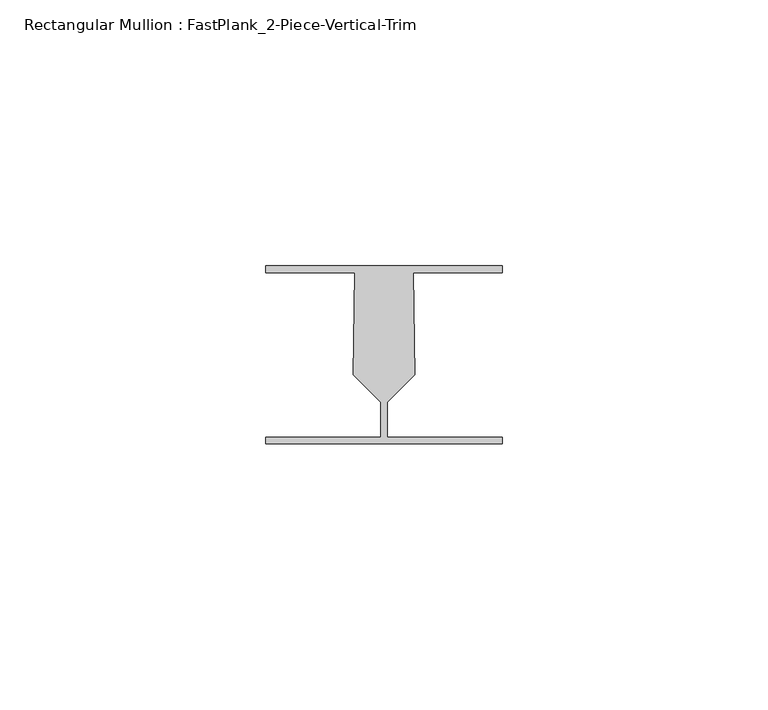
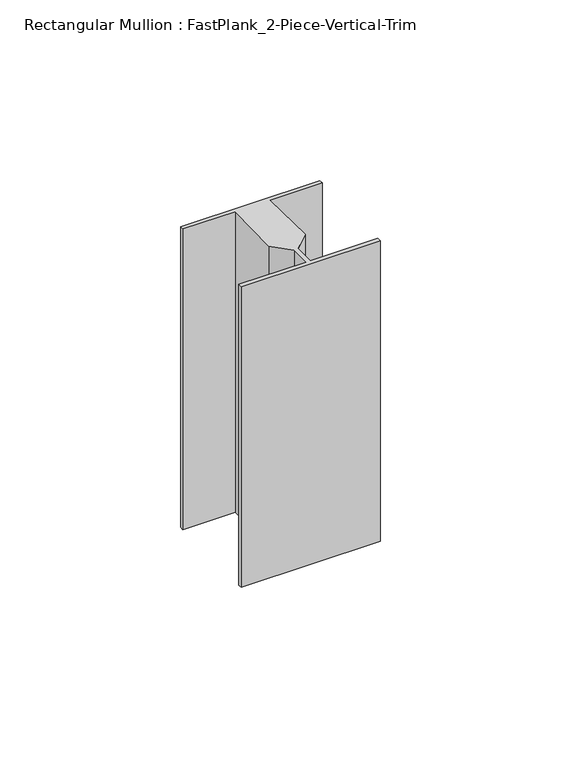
"""IFC4 building model written with IfcOpenShell, lengths in millimetres: member geometry, Rectangular Mullion : FastPlank_2-Piece-Vertical-Trim."""

import ifcopenshell
import ifcopenshell.guid

model = None  # the IFC model being written
_history = None  # IfcOwnerHistory: only IFC2X3 demands one
_inside = {}  # id of a spatial element -> (the spatial element, [elements in it])
_under = {}  # id of a project, library or spatial element -> (it, [spatial elements below it])
_declared = {}  # id of a project -> (the project, [libraries it declares])
_typed = {}  # id of a type object -> (the type object, [elements of that type])
_made_of = {}  # id of a material, layer set ... -> (it, [elements and type objects made of it])


def new_model(schema):
    """Start an empty IFC model of exactly this schema.

    Asked for "IFC4X3", IfcOpenShell would pick the latest addendum, in which some entities
    have other attributes; the version numbers below select the first issue.
    IFC2X3 requires an IfcOwnerHistory on every rooted entity: one is made here for all.
    """
    global model, _history
    if schema == "IFC4X3":
        model = ifcopenshell.file(schema_version=(4, 3, 0, 0))
    else:
        model = ifcopenshell.file(schema=schema)
    _inside.clear()
    _under.clear()
    _declared.clear()
    _typed.clear()
    _made_of.clear()
    _history = None
    if model.schema == "IFC2X3":
        org = make("IfcOrganization", Name="unknown")
        user = make(
            "IfcPersonAndOrganization",
            ThePerson=make("IfcPerson", FamilyName="unknown"),
            TheOrganization=org,
        )
        app = make(
            "IfcApplication",
            ApplicationDeveloper=org,
            Version="unknown",
            ApplicationFullName="unknown",
            ApplicationIdentifier="unknown",
        )
        _history = make(
            "IfcOwnerHistory",
            OwningUser=user,
            OwningApplication=app,
            ChangeAction="ADDED",
            CreationDate=0,
        )
    return model


def make(cls, **values):
    """One entity of the class cls with the attributes given. An attribute that is None is left unset."""
    return model.create_entity(
        cls, **{name: value for name, value in values.items() if value is not None}
    )


def rooted(cls, **values):
    """An entity with a GlobalId (a new one), such as an element, a storey or a relation."""
    return make(cls, GlobalId=ifcopenshell.guid.new(), OwnerHistory=_history, **values)


def si_unit(unit_type, name, prefix=None):
    """IfcSIUnit, for example si_unit("LENGTHUNIT", "METRE", prefix="MILLI")."""
    return make("IfcSIUnit", UnitType=unit_type, Prefix=prefix, Name=name)


def assignment(units):
    """IfcUnitAssignment: the units of a project."""
    return None if units is None else make("IfcUnitAssignment", Units=units)


def point(xyz):
    """IfcCartesianPoint."""
    return None if xyz is None else make("IfcCartesianPoint", Coordinates=xyz)


def direction(xyz):
    """IfcDirection."""
    return None if xyz is None else make("IfcDirection", DirectionRatios=xyz)


def frame(location, z_axis=None, x_axis=None):
    """IfcAxis2Placement3D, a coordinate frame: its origin and axes. An axis left out is left unset."""
    return make(
        "IfcAxis2Placement3D",
        Location=point(location),
        Axis=direction(z_axis),
        RefDirection=direction(x_axis),
    )


def origin():
    """The frame at (0, 0, 0) with its axes left unset."""
    return frame((0.0, 0.0, 0.0))


def place(relative_to, where):
    """IfcLocalPlacement: puts the frame where relative to a parent placement (None: the world)."""
    return make(
        "IfcLocalPlacement", PlacementRelTo=relative_to, RelativePlacement=where
    )


def context(
    kind, dimensions, precision=None, world=None, true_north=None, identifier=None
):
    """IfcGeometricRepresentationContext, for example the 3D "Model" context."""
    return make(
        "IfcGeometricRepresentationContext",
        ContextIdentifier=identifier,
        ContextType=kind,
        CoordinateSpaceDimension=dimensions,
        Precision=precision,
        WorldCoordinateSystem=world,
        TrueNorth=true_north,
    )


def project(units=None, contexts=None):
    """IfcProject with its units and contexts."""
    return rooted(
        "IfcProject",
        Name="project",
        RepresentationContexts=contexts,
        UnitsInContext=assignment(units),
    )


def spatial(cls, under=None, at=None, **own):
    """A site, building, storey or space (cls), placed at a placement, below another one or the project."""
    s = rooted(cls, ObjectPlacement=at, **own)
    if under is not None:
        _under.setdefault(under.id(), (under, []))[1].append(s)
    return s


def polyline(points):
    """IfcPolyline through the points."""
    return make("IfcPolyline", Points=[point(p) for p in points])


def outline(outer, holes=None, kind="AREA"):
    """IfcArbitraryClosedProfileDef: a profile drawn as a closed curve; with holes, ...WithVoids."""
    if holes is None:
        return make("IfcArbitraryClosedProfileDef", ProfileType=kind, OuterCurve=outer)
    return make(
        "IfcArbitraryProfileDefWithVoids",
        ProfileType=kind,
        OuterCurve=outer,
        InnerCurves=holes,
    )


def extrude(swept, where, along, depth):
    """IfcExtrudedAreaSolid: the profile swept, set in the frame where, extruded along a direction by depth."""
    return make(
        "IfcExtrudedAreaSolid",
        SweptArea=swept,
        Position=where,
        ExtrudedDirection=direction(along),
        Depth=depth,
    )


def shape(context_of_items, identifier, shape_type, items):
    """IfcShapeRepresentation: the items that make up one representation, for example the "Body"."""
    return make(
        "IfcShapeRepresentation",
        ContextOfItems=context_of_items,
        RepresentationIdentifier=identifier,
        RepresentationType=shape_type,
        Items=items,
    )


def source(mapping_origin, context_of_items, identifier, shape_type, items):
    """IfcRepresentationMap: a shape defined once, which mapped items show again and again."""
    return make(
        "IfcRepresentationMap",
        MappingOrigin=mapping_origin,
        MappedRepresentation=shape(context_of_items, identifier, shape_type, items),
    )


def transform(
    local_origin,
    x_axis=None,
    y_axis=None,
    z_axis=None,
    scale=None,
    scale2=None,
    scale3=None,
    uniform=True,
):
    """IfcCartesianTransformationOperator3D, or its non-uniform kind. x_axis, y_axis, z_axis: its Axis1, 2, 3."""
    if uniform:
        return make(
            "IfcCartesianTransformationOperator3D",
            Axis1=direction(x_axis),
            Axis2=direction(y_axis),
            LocalOrigin=point(local_origin),
            Scale=scale,
            Axis3=direction(z_axis),
        )
    return make(
        "IfcCartesianTransformationOperator3DnonUniform",
        Axis1=direction(x_axis),
        Axis2=direction(y_axis),
        LocalOrigin=point(local_origin),
        Scale=scale,
        Axis3=direction(z_axis),
        Scale2=scale2,
        Scale3=scale3,
    )


def mapped(mapping_source, mapping_target):
    """IfcMappedItem: shows the shape of a source again, moved by a transform."""
    return make(
        "IfcMappedItem", MappingSource=mapping_source, MappingTarget=mapping_target
    )


def made_of(thing, what):
    """Note that an element or type object is made of a material, layer set ...; save() writes the relation."""
    if what is not None:
        _made_of.setdefault(what.id(), (what, []))[1].append(thing)
    return thing


def element(
    cls,
    number,
    at=None,
    inside=None,
    cuts=None,
    type_object=None,
    material=None,
    context=None,
    identifier="Body",
    shape_type=None,
    held_by="IfcProductDefinitionShape",
    body=None,
    shapes=None,
    **own,
):
    """One element of the class cls, such as IfcWall. Its Tag is "e" and its number.

    at: its placement. inside: the storey or other place that contains it. cuts: it is an
    opening in that element (IfcRelVoidsElement). A single representation is given by context,
    identifier, shape_type and body (its items); several are given by shapes. held_by: the class
    of the entity that holds the representations. save() writes the other relations.
    """
    e = rooted(cls, Tag="e%d" % number, ObjectPlacement=at, **own)
    if body is not None:
        shapes = [shape(context, identifier, shape_type, body)]
    if shapes is not None:
        e.Representation = make(held_by, Representations=shapes)
    if inside is not None:
        _inside.setdefault(inside.id(), (inside, []))[1].append(e)
    if cuts is not None:
        rooted(
            "IfcRelVoidsElement", RelatingBuildingElement=cuts, RelatedOpeningElement=e
        )
    if type_object is not None:
        _typed.setdefault(type_object.id(), (type_object, []))[1].append(e)
    return made_of(e, material)


def aggregate(whole, parts):
    """IfcRelAggregates: a whole, such as a stair, and the parts it consists of."""
    return rooted("IfcRelAggregates", RelatingObject=whole, RelatedObjects=parts)


def save(model, path):
    """Write the relations noted so far, then the file.

    IfcRelAggregates (storeys below a building ...), IfcRelContainedInSpatialStructure (elements
    in a storey), IfcRelDefinesByType, IfcRelAssociatesMaterial and IfcRelDeclares: one each for
    every whole, place, type object, material and project.
    """
    for whole, parts in _under.values():
        aggregate(whole, parts)
    for where, things in _inside.values():
        rooted(
            "IfcRelContainedInSpatialStructure",
            RelatedElements=things,
            RelatingStructure=where,
        )
    for kind, things in _typed.values():
        rooted("IfcRelDefinesByType", RelatedObjects=things, RelatingType=kind)
    for what, things in _made_of.values():
        rooted("IfcRelAssociatesMaterial", RelatedObjects=things, RelatingMaterial=what)
    for by, libraries in _declared.values():
        rooted("IfcRelDeclares", RelatingContext=by, RelatedDefinitions=libraries)
    model.write(path)


def rectangular_mullion_fastplank_2_piece_vertical_trim_b75c35a9(model_context):
    return source(origin(), model_context, "Body", "SweptSolid", [
        extrude(outline(polyline([(22.2251761, -11.8625052), (-22.2251761, -11.8625052), (-22.2251761, -10.5625078), (-0.6499987, -10.5625078), (-0.6499987, -3.992521), (-5.8241876, 1.1816679), (-5.4899028, 20.332833), (-22.2251761, 20.332833), (-22.2251761, 21.6328304), (22.2251761, 21.6328304), (22.2251761, 20.332833), (5.4899028, 20.332833), (5.8241876, 1.1816679), (0.6499987, -3.992521), (0.6499987, -10.5625078), (22.2251761, -10.5625078), (22.2251761, -11.8625052)])), frame((0.0, 0.0, -101.6), z_axis=(0.0, 0.0, 1.0), x_axis=(1.0, 0.0, 0.0)), (0.0, 0.0, 1.0), 101.6),
    ])


if __name__ == "__main__":
    model = new_model("IFC4")
    model_context = context("Model", 3, world=origin())
    ifc_project = project(units=[si_unit("LENGTHUNIT", "METRE", prefix="MILLI")], contexts=[model_context])
    site = spatial("IfcSite", under=ifc_project)
    building = spatial("IfcBuilding", under=site)
    placement = place(None, origin())
    rectangular_mullion_fastplank_2_piece_vertical_trim_shape = rectangular_mullion_fastplank_2_piece_vertical_trim_b75c35a9(model_context)
    element("IfcMember", 1, ObjectType="Rectangular Mullion : FastPlank_2-Piece-Vertical-Trim", at=placement, inside=building, context=model_context, shape_type="MappedRepresentation", body=[
        mapped(rectangular_mullion_fastplank_2_piece_vertical_trim_shape, transform((0.0, 0.0, 0.0), x_axis=(1.0, 0.0, 0.0), y_axis=(0.0, 1.0, 0.0), z_axis=(0.0, 0.0, 1.0))),
    ])
    save(model, "model.ifc")
